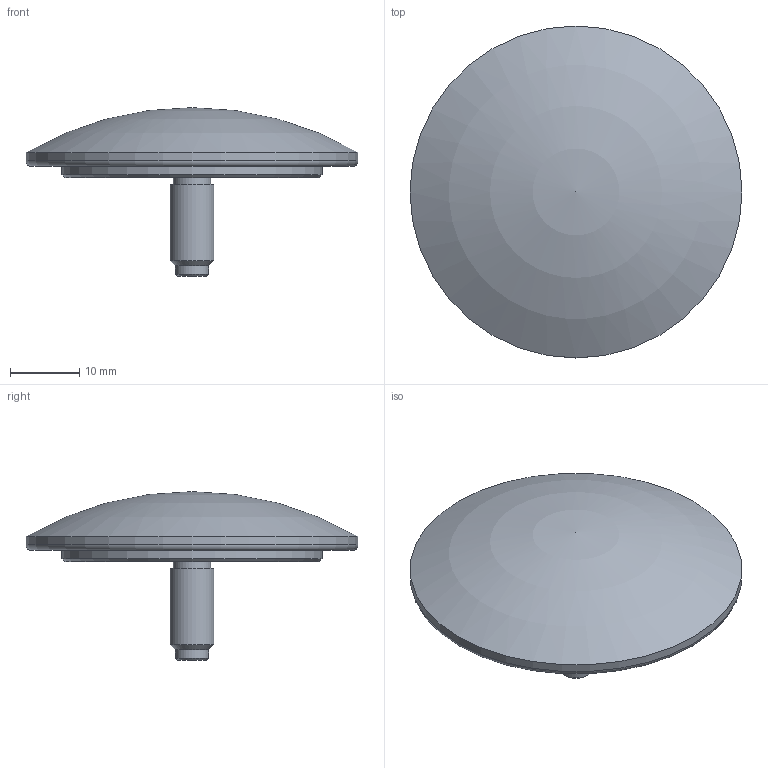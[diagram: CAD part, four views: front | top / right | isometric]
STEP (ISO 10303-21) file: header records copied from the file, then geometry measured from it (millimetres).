
FILE_DESCRIPTION(('Open CASCADE Model'),'2;1');
FILE_NAME('Open CASCADE Shape Model','2026-11-10T21:02:25',('Author'),( 'Open CASCADE'),'Open CASCADE STEP processor 7.9','Open CASCADE 7.9' ,'Unknown');
FILE_SCHEMA(('AUTOMOTIVE_DESIGN { 1 0 10303 214 1 1 1 1 }'));
Length unit declared in the file: millimetre
Products named in the file (1): Open CASCADE STEP translator 7.9 9
Bounding box: 48 x 48 x 24.38 mm (x, y, z)
Volume: 11807.4 mm3; surface area: 4441.9 mm2
Topology: 1 solids, 1 shells, 14 faces, 24 edges, 14 vertices
Faces by surface type: cylinder 5, plane 4, cone 3, torus 1, sphere 1
Full cylindrical faces by diameter (mm): 4.8 x1, 5.4 x1, 6.35 x1, 37.6 x1, 48 x1
Entity records: 639 total; most frequent: DIRECTION 114, CARTESIAN_POINT 98, LINE 47, VECTOR 47, ORIENTED_EDGE 46, PCURVE 46, DEFINITIONAL_REPRESENTATION 46, AXIS2_PLACEMENT_3D 30
